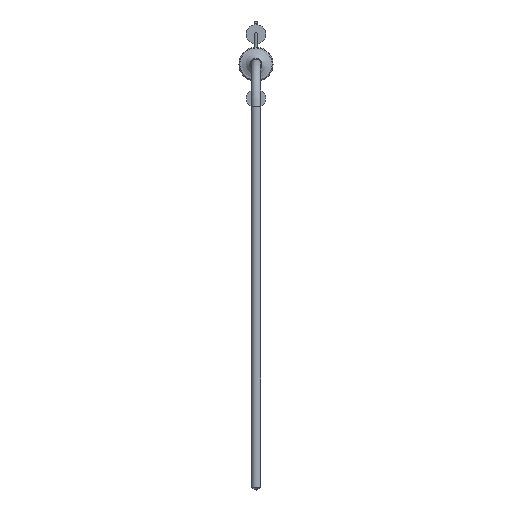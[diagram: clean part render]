
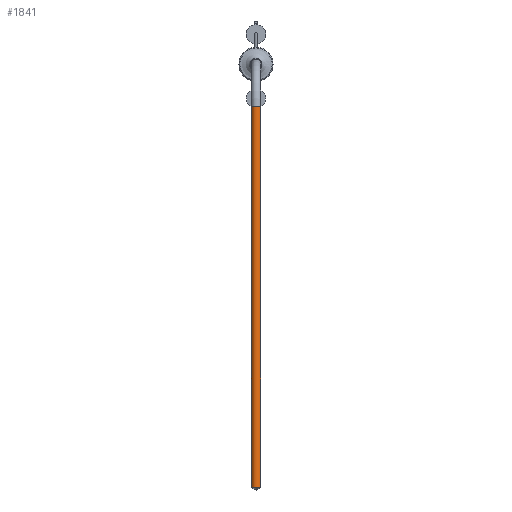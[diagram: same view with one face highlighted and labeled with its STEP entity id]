
A CAD part, top view. The second image highlights one B-rep face of the part: STEP entity #1841.
In plain terms, the highlighted cylindrical face has radius 1.15 mm (diameter 2.3 mm), a full revolution.
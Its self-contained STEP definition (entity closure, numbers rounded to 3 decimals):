
#86 = AXIS2_PLACEMENT_3D ( 'NONE', #279, #950, #1260 ) ;
#180 = CARTESIAN_POINT ( 'NONE',  ( 0., -10., 24. ) ) ;
#199 = VERTEX_POINT ( 'NONE', #1037 ) ;
#249 = VERTEX_POINT ( 'NONE', #521 ) ;
#257 = ORIENTED_EDGE ( 'NONE', *, *, #2136, .T. ) ;
#279 = CARTESIAN_POINT ( 'NONE',  ( 0., -99.34, 24. ) ) ;
#368 = EDGE_LOOP ( 'NONE', ( #1511 ) ) ;
#384 = AXIS2_PLACEMENT_3D ( 'NONE', #180, #638, #1125 ) ;
#450 = CIRCLE ( 'NONE', #1914, 1.15 ) ;
#463 = FACE_OUTER_BOUND ( 'NONE', #368, .T. ) ;
#521 = CARTESIAN_POINT ( 'NONE',  ( -1.15, -10., 24. ) ) ;
#638 = DIRECTION ( 'NONE',  ( 0., -1., 0. ) ) ;
#662 = DIRECTION ( 'NONE',  ( -1., 0., 0. ) ) ;
#950 = DIRECTION ( 'NONE',  ( 0., 1., 0. ) ) ;
#1024 = CIRCLE ( 'NONE', #86, 1.15 ) ;
#1037 = CARTESIAN_POINT ( 'NONE',  ( 0., -99.34, 25.15 ) ) ;
#1125 = DIRECTION ( 'NONE',  ( 0., 0., 1. ) ) ;
#1260 = DIRECTION ( 'NONE',  ( 0., 0., 1. ) ) ;
#1312 = DIRECTION ( 'NONE',  ( 0., -1., 0. ) ) ;
#1511 = ORIENTED_EDGE ( 'NONE', *, *, #1616, .T. ) ;
#1616 = EDGE_CURVE ( 'NONE', #199, #199, #1024, .T. ) ;
#1645 = CARTESIAN_POINT ( 'NONE',  ( 0., -10., 24. ) ) ;
#1662 = FACE_OUTER_BOUND ( 'NONE', #1806, .T. ) ;
#1675 = CYLINDRICAL_SURFACE ( 'NONE', #384, 1.15 ) ;
#1806 = EDGE_LOOP ( 'NONE', ( #257 ) ) ;
#1841 = ADVANCED_FACE ( 'NONE', ( #463, #1662 ), #1675, .T. ) ;
#1914 = AXIS2_PLACEMENT_3D ( 'NONE', #1645, #1312, #662 ) ;
#2136 = EDGE_CURVE ( 'NONE', #249, #249, #450, .T. ) ;
